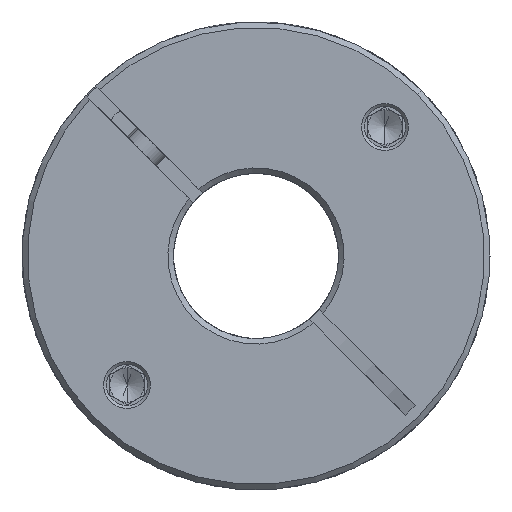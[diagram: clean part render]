
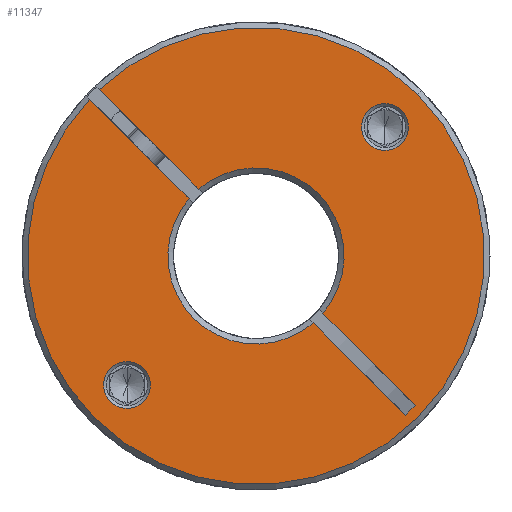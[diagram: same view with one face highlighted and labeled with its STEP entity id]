
A CAD part, front view. The second image highlights one B-rep face of the part: STEP entity #11347.
In plain terms, the highlighted planar face has unit normal (0, -1, 0).
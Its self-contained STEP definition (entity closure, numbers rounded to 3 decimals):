
#285 = FACE_BOUND ( 'NONE', #5757, .T. ) ;
#286 = ORIENTED_EDGE ( 'NONE', *, *, #20705, .T. ) ;
#383 = ORIENTED_EDGE ( 'NONE', *, *, #17189, .T. ) ;
#527 = CARTESIAN_POINT ( 'NONE',  ( -2.028, -67.045, 68.707 ) ) ;
#1224 = DIRECTION ( 'NONE',  ( 0., 1., 0. ) ) ;
#1368 = CARTESIAN_POINT ( 'NONE',  ( 5.581, -67.045, 58.27 ) ) ;
#1583 = AXIS2_PLACEMENT_3D ( 'NONE', #15505, #20470, #4453 ) ;
#1659 = CARTESIAN_POINT ( 'NONE',  ( -23.878, -67.045, 46.858 ) ) ;
#1884 = CARTESIAN_POINT ( 'NONE',  ( -12.466, -67.045, 76.316 ) ) ;
#1944 = AXIS2_PLACEMENT_3D ( 'NONE', #10553, #3889, #4167 ) ;
#2012 = EDGE_CURVE ( 'NONE', #4492, #4466, #7221, .T. ) ;
#2052 = CIRCLE ( 'NONE', #9169, 33.2 ) ;
#2105 = FACE_OUTER_BOUND ( 'NONE', #11821, .T. ) ;
#2195 = DIRECTION ( 'NONE',  ( 0.707, 0., -0.707 ) ) ;
#2269 = ORIENTED_EDGE ( 'NONE', *, *, #12624, .T. ) ;
#2717 = VERTEX_POINT ( 'NONE', #12167 ) ;
#2758 = VERTEX_POINT ( 'NONE', #4285 ) ;
#3068 = ORIENTED_EDGE ( 'NONE', *, *, #19820, .T. ) ;
#3290 = VECTOR ( 'NONE', #15885, 1000. ) ;
#3663 = LINE ( 'NONE', #16691, #21227 ) ;
#3809 = DIRECTION ( 'NONE',  ( 0., -1., 0. ) ) ;
#3889 = DIRECTION ( 'NONE',  ( 0., 1., 0. ) ) ;
#3952 = CARTESIAN_POINT ( 'NONE',  ( -2.735, -67.045, 68. ) ) ;
#4167 = DIRECTION ( 'NONE',  ( 0.707, 0., 0.707 ) ) ;
#4285 = CARTESIAN_POINT ( 'NONE',  ( 18.407, -67.045, 89.142 ) ) ;
#4306 = VECTOR ( 'NONE', #16375, 1000. ) ;
#4453 = DIRECTION ( 'NONE',  ( 0.707, 0., 0.707 ) ) ;
#4466 = VERTEX_POINT ( 'NONE', #9862 ) ;
#4492 = VERTEX_POINT ( 'NONE', #1659 ) ;
#4526 = DIRECTION ( 'NONE',  ( 0.707, 0., 0.707 ) ) ;
#4667 = CARTESIAN_POINT ( 'NONE',  ( 20.402, -67.045, 46.277 ) ) ;
#4811 = CARTESIAN_POINT ( 'NONE',  ( 16.003, -67.045, 86.738 ) ) ;
#4881 = PLANE ( 'NONE',  #6725 ) ;
#5458 = AXIS2_PLACEMENT_3D ( 'NONE', #18462, #15081, #6963 ) ;
#5514 = LINE ( 'NONE', #6225, #15361 ) ;
#5669 = CIRCLE ( 'NONE', #1583, 3.4 ) ;
#5757 = EDGE_LOOP ( 'NONE', ( #383, #2269 ) ) ;
#5843 = VERTEX_POINT ( 'NONE', #13723 ) ;
#6087 = CARTESIAN_POINT ( 'NONE',  ( 20.741, -67.045, 91.476 ) ) ;
#6225 = CARTESIAN_POINT ( 'NONE',  ( 18.988, -67.045, 44.862 ) ) ;
#6365 = ORIENTED_EDGE ( 'NONE', *, *, #19635, .T. ) ;
#6693 = CARTESIAN_POINT ( 'NONE',  ( 18.988, -67.045, 44.862 ) ) ;
#6725 = AXIS2_PLACEMENT_3D ( 'NONE', #11344, #16003, #4526 ) ;
#6739 = CIRCLE ( 'NONE', #21037, 12.8 ) ;
#6963 = DIRECTION ( 'NONE',  ( 0.707, 0., 0.707 ) ) ;
#7022 = DIRECTION ( 'NONE',  ( 0.707, 0., 0.707 ) ) ;
#7221 = CIRCLE ( 'NONE', #5458, 3.4 ) ;
#7292 = VERTEX_POINT ( 'NONE', #1884 ) ;
#7422 = VERTEX_POINT ( 'NONE', #6693 ) ;
#7506 = VERTEX_POINT ( 'NONE', #6087 ) ;
#7527 = AXIS2_PLACEMENT_3D ( 'NONE', #4811, #19545, #16358 ) ;
#7549 = CIRCLE ( 'NONE', #1944, 12.8 ) ;
#7585 = ORIENTED_EDGE ( 'NONE', *, *, #15562, .T. ) ;
#7649 = LINE ( 'NONE', #17553, #3290 ) ;
#7845 = CARTESIAN_POINT ( 'NONE',  ( 16.003, -67.045, 86.738 ) ) ;
#7990 = AXIS2_PLACEMENT_3D ( 'NONE', #17834, #16309, #17752 ) ;
#8147 = CIRCLE ( 'NONE', #7527, 3.4 ) ;
#8248 = CARTESIAN_POINT ( 'NONE',  ( 6.995, -67.045, 59.684 ) ) ;
#8655 = LINE ( 'NONE', #527, #14105 ) ;
#8853 = EDGE_CURVE ( 'NONE', #7506, #14374, #21276, .T. ) ;
#8873 = DIRECTION ( 'NONE',  ( 0.707, 0., -0.707 ) ) ;
#9162 = ORIENTED_EDGE ( 'NONE', *, *, #13283, .T. ) ;
#9169 = AXIS2_PLACEMENT_3D ( 'NONE', #20986, #19334, #11208 ) ;
#9254 = VERTEX_POINT ( 'NONE', #15589 ) ;
#9330 = DIRECTION ( 'NONE',  ( -0.707, 0., -0.707 ) ) ;
#9518 = DIRECTION ( 'NONE',  ( 0., 1., 0. ) ) ;
#9558 = CARTESIAN_POINT ( 'NONE',  ( -2.735, -67.045, 68. ) ) ;
#9862 = CARTESIAN_POINT ( 'NONE',  ( -19.069, -67.045, 51.666 ) ) ;
#10087 = ORIENTED_EDGE ( 'NONE', *, *, #11103, .T. ) ;
#10472 = VERTEX_POINT ( 'NONE', #18928 ) ;
#10553 = CARTESIAN_POINT ( 'NONE',  ( -2.735, -67.045, 68. ) ) ;
#10819 = VERTEX_POINT ( 'NONE', #8248 ) ;
#11103 = EDGE_CURVE ( 'NONE', #9254, #2717, #18615, .T. ) ;
#11208 = DIRECTION ( 'NONE',  ( 0.707, 0., 0.707 ) ) ;
#11295 = DIRECTION ( 'NONE',  ( 0.707, 0., 0.707 ) ) ;
#11344 = CARTESIAN_POINT ( 'NONE',  ( -2.735, -67.045, 68. ) ) ;
#11347 = ADVANCED_FACE ( 'NONE', ( #285, #12385, #2105 ), #4881, .T. ) ;
#11361 = VERTEX_POINT ( 'NONE', #4667 ) ;
#11557 = ORIENTED_EDGE ( 'NONE', *, *, #18548, .F. ) ;
#11647 = AXIS2_PLACEMENT_3D ( 'NONE', #9558, #1224, #20906 ) ;
#11821 = EDGE_LOOP ( 'NONE', ( #21081, #9162, #15445, #15481, #6365, #10087, #13540, #3068, #286, #11557, #15406 ) ) ;
#11887 = CARTESIAN_POINT ( 'NONE',  ( -25.493, -67.045, 92.172 ) ) ;
#12167 = CARTESIAN_POINT ( 'NONE',  ( 6.316, -67.045, 77.051 ) ) ;
#12379 = AXIS2_PLACEMENT_3D ( 'NONE', #3952, #3809, #7022 ) ;
#12385 = FACE_BOUND ( 'NONE', #19647, .T. ) ;
#12624 = EDGE_CURVE ( 'NONE', #10472, #2758, #13794, .T. ) ;
#13283 = EDGE_CURVE ( 'NONE', #17169, #5843, #13774, .T. ) ;
#13540 = ORIENTED_EDGE ( 'NONE', *, *, #14769, .T. ) ;
#13690 = EDGE_CURVE ( 'NONE', #14913, #7292, #7549, .T. ) ;
#13723 = CARTESIAN_POINT ( 'NONE',  ( -26.211, -67.045, 44.524 ) ) ;
#13770 = CARTESIAN_POINT ( 'NONE',  ( -26.908, -67.045, 90.758 ) ) ;
#13774 = CIRCLE ( 'NONE', #7990, 33.2 ) ;
#13794 = CIRCLE ( 'NONE', #20301, 3.4 ) ;
#14105 = VECTOR ( 'NONE', #8873, 1000. ) ;
#14373 = ORIENTED_EDGE ( 'NONE', *, *, #2012, .T. ) ;
#14374 = VERTEX_POINT ( 'NONE', #11887 ) ;
#14769 = EDGE_CURVE ( 'NONE', #2717, #10819, #6739, .T. ) ;
#14913 = VERTEX_POINT ( 'NONE', #1368 ) ;
#14989 = EDGE_CURVE ( 'NONE', #17169, #7292, #3663, .T. ) ;
#15081 = DIRECTION ( 'NONE',  ( 0., 1., 0. ) ) ;
#15361 = VECTOR ( 'NONE', #9330, 1000. ) ;
#15406 = ORIENTED_EDGE ( 'NONE', *, *, #13690, .T. ) ;
#15445 = ORIENTED_EDGE ( 'NONE', *, *, #16341, .T. ) ;
#15481 = ORIENTED_EDGE ( 'NONE', *, *, #8853, .T. ) ;
#15505 = CARTESIAN_POINT ( 'NONE',  ( -21.473, -67.045, 49.262 ) ) ;
#15562 = EDGE_CURVE ( 'NONE', #4466, #4492, #5669, .T. ) ;
#15589 = CARTESIAN_POINT ( 'NONE',  ( -11.051, -67.045, 77.73 ) ) ;
#15773 = DIRECTION ( 'NONE',  ( 0.707, 0., 0.707 ) ) ;
#15885 = DIRECTION ( 'NONE',  ( 0.707, 0., -0.707 ) ) ;
#16003 = DIRECTION ( 'NONE',  ( 0., -1., 0. ) ) ;
#16309 = DIRECTION ( 'NONE',  ( 0., -1., 0. ) ) ;
#16341 = EDGE_CURVE ( 'NONE', #5843, #7506, #2052, .T. ) ;
#16358 = DIRECTION ( 'NONE',  ( 0.707, 0., 0.707 ) ) ;
#16375 = DIRECTION ( 'NONE',  ( 0.707, 0., -0.707 ) ) ;
#16691 = CARTESIAN_POINT ( 'NONE',  ( -3.442, -67.045, 67.293 ) ) ;
#17169 = VERTEX_POINT ( 'NONE', #13770 ) ;
#17189 = EDGE_CURVE ( 'NONE', #2758, #10472, #8147, .T. ) ;
#17466 = LINE ( 'NONE', #18244, #4306 ) ;
#17553 = CARTESIAN_POINT ( 'NONE',  ( -2.028, -67.045, 68.707 ) ) ;
#17752 = DIRECTION ( 'NONE',  ( 0.707, 0., 0.707 ) ) ;
#17834 = CARTESIAN_POINT ( 'NONE',  ( -2.735, -67.045, 68. ) ) ;
#18244 = CARTESIAN_POINT ( 'NONE',  ( -3.442, -67.045, 67.293 ) ) ;
#18462 = CARTESIAN_POINT ( 'NONE',  ( -21.473, -67.045, 49.262 ) ) ;
#18548 = EDGE_CURVE ( 'NONE', #14913, #7422, #17466, .T. ) ;
#18615 = CIRCLE ( 'NONE', #11647, 12.8 ) ;
#18928 = CARTESIAN_POINT ( 'NONE',  ( 13.599, -67.045, 84.334 ) ) ;
#19099 = DIRECTION ( 'NONE',  ( 0., 1., 0. ) ) ;
#19334 = DIRECTION ( 'NONE',  ( 0., -1., 0. ) ) ;
#19545 = DIRECTION ( 'NONE',  ( 0., 1., 0. ) ) ;
#19635 = EDGE_CURVE ( 'NONE', #14374, #9254, #8655, .T. ) ;
#19647 = EDGE_LOOP ( 'NONE', ( #7585, #14373 ) ) ;
#19820 = EDGE_CURVE ( 'NONE', #10819, #11361, #7649, .T. ) ;
#20301 = AXIS2_PLACEMENT_3D ( 'NONE', #7845, #9518, #11295 ) ;
#20470 = DIRECTION ( 'NONE',  ( 0., 1., 0. ) ) ;
#20705 = EDGE_CURVE ( 'NONE', #11361, #7422, #5514, .T. ) ;
#20823 = CARTESIAN_POINT ( 'NONE',  ( -2.735, -67.045, 68. ) ) ;
#20906 = DIRECTION ( 'NONE',  ( 0.707, 0., 0.707 ) ) ;
#20986 = CARTESIAN_POINT ( 'NONE',  ( -2.735, -67.045, 68. ) ) ;
#21037 = AXIS2_PLACEMENT_3D ( 'NONE', #20823, #19099, #15773 ) ;
#21081 = ORIENTED_EDGE ( 'NONE', *, *, #14989, .F. ) ;
#21227 = VECTOR ( 'NONE', #2195, 1000. ) ;
#21276 = CIRCLE ( 'NONE', #12379, 33.2 ) ;
